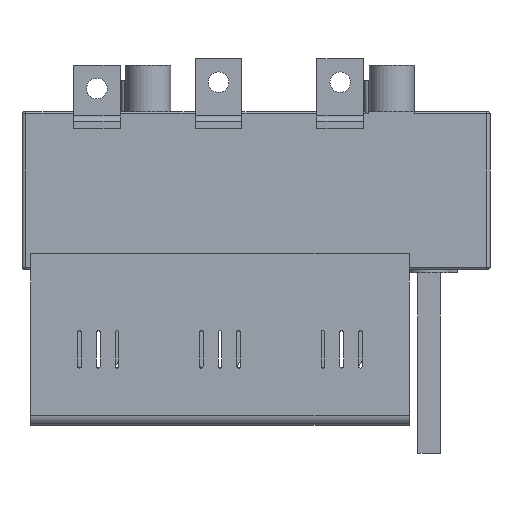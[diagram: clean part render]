
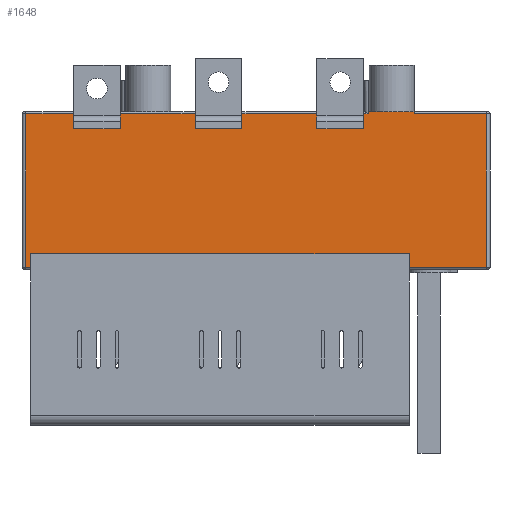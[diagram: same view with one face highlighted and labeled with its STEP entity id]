
A CAD part, front view. The second image highlights one B-rep face of the part: STEP entity #1648.
In plain terms, the highlighted planar face has unit normal (0, -1, 0).
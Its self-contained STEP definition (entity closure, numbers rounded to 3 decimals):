
#1648=ADVANCED_FACE('',(#3215),#2300,.T.);
#2300=PLANE('',#20838);
#3215=FACE_OUTER_BOUND('',#4389,.T.);
#4389=EDGE_LOOP('',(#10401,#10402,#10403,#10404,#10405,#10406,#10407,#10408,
#10409,#10410,#10411,#10412,#10413,#10414,#10415,#10416,#10417,#10418,#10419,
#10420,#10421,#10422,#10423,#10424,#10425,#10426,#10427,#10428));
#10401=ORIENTED_EDGE('',*,*,#14681,.F.);
#10402=ORIENTED_EDGE('',*,*,#14700,.F.);
#10403=ORIENTED_EDGE('',*,*,#15108,.T.);
#10404=ORIENTED_EDGE('',*,*,#15101,.T.);
#10405=ORIENTED_EDGE('',*,*,#14937,.F.);
#10406=ORIENTED_EDGE('',*,*,#14927,.T.);
#10407=ORIENTED_EDGE('',*,*,#14936,.T.);
#10408=ORIENTED_EDGE('',*,*,#14897,.T.);
#10409=ORIENTED_EDGE('',*,*,#15061,.T.);
#10410=ORIENTED_EDGE('',*,*,#15054,.F.);
#10411=ORIENTED_EDGE('',*,*,#14990,.F.);
#10412=ORIENTED_EDGE('',*,*,#15072,.T.);
#10413=ORIENTED_EDGE('',*,*,#15003,.T.);
#10414=ORIENTED_EDGE('',*,*,#15092,.T.);
#10415=ORIENTED_EDGE('',*,*,#14849,.F.);
#10416=ORIENTED_EDGE('',*,*,#14619,.T.);
#10417=ORIENTED_EDGE('',*,*,#14595,.T.);
#10418=ORIENTED_EDGE('',*,*,#14620,.T.);
#10419=ORIENTED_EDGE('',*,*,#14854,.T.);
#10420=ORIENTED_EDGE('',*,*,#15095,.T.);
#10421=ORIENTED_EDGE('',*,*,#15109,.F.);
#10422=ORIENTED_EDGE('',*,*,#14649,.F.);
#10423=ORIENTED_EDGE('',*,*,#14638,.F.);
#10424=ORIENTED_EDGE('',*,*,#14657,.F.);
#10425=ORIENTED_EDGE('',*,*,#15110,.T.);
#10426=ORIENTED_EDGE('',*,*,#15098,.T.);
#10427=ORIENTED_EDGE('',*,*,#15111,.F.);
#10428=ORIENTED_EDGE('',*,*,#14692,.F.);
#12033=VERTEX_POINT('',#30718);
#12036=VERTEX_POINT('',#30724);
#12038=VERTEX_POINT('',#30730);
#12039=VERTEX_POINT('',#30731);
#12065=VERTEX_POINT('',#30807);
#12068=VERTEX_POINT('',#30813);
#12070=VERTEX_POINT('',#30819);
#12071=VERTEX_POINT('',#30820);
#12097=VERTEX_POINT('',#30896);
#12100=VERTEX_POINT('',#30902);
#12102=VERTEX_POINT('',#30908);
#12103=VERTEX_POINT('',#30909);
#12217=VERTEX_POINT('',#31261);
#12220=VERTEX_POINT('',#31269);
#12252=VERTEX_POINT('',#31355);
#12253=VERTEX_POINT('',#31375);
#12261=VERTEX_POINT('',#31396);
#12271=VERTEX_POINT('',#31423);
#12275=VERTEX_POINT('',#31465);
#12323=VERTEX_POINT('',#31610);
#12324=VERTEX_POINT('',#31612);
#12331=VERTEX_POINT('',#31642);
#12334=VERTEX_POINT('',#31659);
#12369=VERTEX_POINT('',#31761);
#12379=VERTEX_POINT('',#31834);
#12381=VERTEX_POINT('',#31840);
#12382=VERTEX_POINT('',#31842);
#12384=VERTEX_POINT('',#31848);
#14595=EDGE_CURVE('',#12038,#12039,#16809,.T.);
#14619=EDGE_CURVE('',#12036,#12038,#16829,.T.);
#14620=EDGE_CURVE('',#12039,#12033,#16830,.T.);
#14638=EDGE_CURVE('',#12070,#12071,#16840,.T.);
#14649=EDGE_CURVE('',#12071,#12068,#16849,.T.);
#14657=EDGE_CURVE('',#12065,#12070,#16857,.T.);
#14681=EDGE_CURVE('',#12102,#12103,#16871,.T.);
#14692=EDGE_CURVE('',#12103,#12100,#16880,.T.);
#14700=EDGE_CURVE('',#12097,#12102,#16888,.T.);
#14849=EDGE_CURVE('',#12036,#12217,#16978,.T.);
#14854=EDGE_CURVE('',#12033,#12220,#16981,.T.);
#14897=EDGE_CURVE('',#12252,#12253,#17004,.T.);
#14927=EDGE_CURVE('',#12275,#12271,#17013,.T.);
#14936=EDGE_CURVE('',#12271,#12252,#17018,.T.);
#14937=EDGE_CURVE('',#12275,#12261,#17019,.T.);
#14990=EDGE_CURVE('',#12323,#12324,#17041,.T.);
#15003=EDGE_CURVE('',#12331,#12334,#17048,.T.);
#15054=EDGE_CURVE('',#12324,#12369,#17080,.T.);
#15061=EDGE_CURVE('',#12253,#12369,#17086,.T.);
#15072=EDGE_CURVE('',#12323,#12331,#17096,.T.);
#15092=EDGE_CURVE('',#12334,#12217,#17114,.T.);
#15095=EDGE_CURVE('',#12220,#12379,#17116,.T.);
#15098=EDGE_CURVE('',#12382,#12381,#17118,.T.);
#15101=EDGE_CURVE('',#12384,#12261,#17120,.T.);
#15108=EDGE_CURVE('',#12097,#12384,#17126,.T.);
#15109=EDGE_CURVE('',#12068,#12379,#17127,.T.);
#15110=EDGE_CURVE('',#12065,#12382,#17128,.T.);
#15111=EDGE_CURVE('',#12100,#12381,#17129,.T.);
#16809=LINE('',#30729,#18827);
#16829=LINE('',#30778,#18847);
#16830=LINE('',#30780,#18848);
#16840=LINE('',#30818,#18858);
#16849=LINE('',#30842,#18867);
#16857=LINE('',#30857,#18875);
#16871=LINE('',#30907,#18889);
#16880=LINE('',#30931,#18898);
#16888=LINE('',#30946,#18906);
#16978=LINE('',#31260,#18996);
#16981=LINE('',#31270,#18999);
#17004=LINE('',#31377,#19022);
#17013=LINE('',#31468,#19031);
#17018=LINE('',#31485,#19036);
#17019=LINE('',#31487,#19037);
#17041=LINE('',#31611,#19059);
#17048=LINE('',#31660,#19066);
#17080=LINE('',#31760,#19098);
#17086=LINE('',#31772,#19104);
#17096=LINE('',#31792,#19114);
#17114=LINE('',#31829,#19132);
#17116=LINE('',#31835,#19134);
#17118=LINE('',#31841,#19136);
#17120=LINE('',#31847,#19138);
#17126=LINE('',#31858,#19144);
#17127=LINE('',#31859,#19145);
#17128=LINE('',#31860,#19146);
#17129=LINE('',#31861,#19147);
#18827=VECTOR('',#25133,1.);
#18847=VECTOR('',#25179,1.);
#18848=VECTOR('',#25182,1.);
#18858=VECTOR('',#25216,1.);
#18867=VECTOR('',#25239,1.);
#18875=VECTOR('',#25253,1.);
#18889=VECTOR('',#25299,1.);
#18898=VECTOR('',#25322,1.);
#18906=VECTOR('',#25336,1.);
#18996=VECTOR('',#25668,1.);
#18999=VECTOR('',#25677,1.);
#19022=VECTOR('',#25768,1.);
#19031=VECTOR('',#25833,1.);
#19036=VECTOR('',#25856,1.);
#19037=VECTOR('',#25859,1.);
#19059=VECTOR('',#25997,1.);
#19066=VECTOR('',#26018,1.);
#19098=VECTOR('',#26118,1.);
#19104=VECTOR('',#26130,1.);
#19114=VECTOR('',#26152,1.);
#19132=VECTOR('',#26204,1.);
#19134=VECTOR('',#26210,1.);
#19136=VECTOR('',#26216,1.);
#19138=VECTOR('',#26222,1.);
#19144=VECTOR('',#26234,1.);
#19145=VECTOR('',#26235,1.);
#19146=VECTOR('',#26236,1.);
#19147=VECTOR('',#26237,1.);
#20838=AXIS2_PLACEMENT_3D('',#31862,#26238,#26239);
#25133=DIRECTION('',(-1.,0.,0.));
#25179=DIRECTION('',(0.,0.,-1.));
#25182=DIRECTION('',(0.,0.,1.));
#25216=DIRECTION('',(1.,0.,0.));
#25239=DIRECTION('',(0.,0.,1.));
#25253=DIRECTION('',(0.,0.,-1.));
#25299=DIRECTION('',(1.,0.,0.));
#25322=DIRECTION('',(0.,0.,1.));
#25336=DIRECTION('',(0.,0.,-1.));
#25668=DIRECTION('',(0.,0.,1.));
#25677=DIRECTION('',(0.,0.,1.));
#25768=DIRECTION('',(-1.,0.,0.));
#25833=DIRECTION('',(1.,0.,0.));
#25856=DIRECTION('',(0.,0.,1.));
#25859=DIRECTION('',(0.,0.,1.));
#25997=DIRECTION('',(0.,0.,-1.));
#26018=DIRECTION('',(0.,0.,-1.));
#26118=DIRECTION('',(1.,0.,0.));
#26130=DIRECTION('',(0.,0.,1.));
#26152=DIRECTION('',(-1.,0.,0.));
#26204=DIRECTION('',(-1.,0.,0.));
#26210=DIRECTION('',(-1.,0.,0.));
#26216=DIRECTION('',(-1.,0.,0.));
#26222=DIRECTION('',(-1.,0.,0.));
#26234=DIRECTION('',(0.,0.,1.));
#26235=DIRECTION('',(0.,0.,1.));
#26236=DIRECTION('',(0.,0.,1.));
#26237=DIRECTION('',(0.,0.,1.));
#26238=DIRECTION('',(0.,-1.,0.));
#26239=DIRECTION('',(1.,0.,0.));
#30718=CARTESIAN_POINT('',(-40.,-52.5,-5.));
#30724=CARTESIAN_POINT('',(-15.,-52.5,-5.));
#30729=CARTESIAN_POINT('',(-15.,-52.5,-9.));
#30730=CARTESIAN_POINT('',(-15.,-52.5,-9.));
#30731=CARTESIAN_POINT('',(-40.,-52.5,-9.));
#30778=CARTESIAN_POINT('',(-15.,-52.5,-9.));
#30780=CARTESIAN_POINT('',(-40.,-52.5,-9.));
#30807=CARTESIAN_POINT('',(-105.,-52.5,-5.));
#30813=CARTESIAN_POINT('',(-80.,-52.5,-5.));
#30818=CARTESIAN_POINT('',(-80.,-52.5,-9.));
#30819=CARTESIAN_POINT('',(-105.,-52.5,-9.));
#30820=CARTESIAN_POINT('',(-80.,-52.5,-9.));
#30842=CARTESIAN_POINT('',(-80.,-52.5,-9.));
#30857=CARTESIAN_POINT('',(-105.,-52.5,-9.));
#30896=CARTESIAN_POINT('',(-170.,-52.5,-5.));
#30902=CARTESIAN_POINT('',(-145.,-52.5,-5.));
#30907=CARTESIAN_POINT('',(-145.,-52.5,-9.));
#30908=CARTESIAN_POINT('',(-170.,-52.5,-9.));
#30909=CARTESIAN_POINT('',(-145.,-52.5,-9.));
#30931=CARTESIAN_POINT('',(-145.,-52.5,-9.));
#30946=CARTESIAN_POINT('',(-170.,-52.5,-9.));
#31260=CARTESIAN_POINT('',(-15.,-52.5,-9.));
#31261=CARTESIAN_POINT('',(-15.,-52.5,-1.));
#31269=CARTESIAN_POINT('',(-40.,-52.5,-1.));
#31270=CARTESIAN_POINT('',(-40.,-52.5,-9.));
#31355=CARTESIAN_POINT('',(50.5,-52.5,-1.));
#31375=CARTESIAN_POINT('',(12.,-52.5,-1.));
#31377=CARTESIAN_POINT('',(12.,-52.5,-1.));
#31396=CARTESIAN_POINT('',(-195.5,-52.5,-1.));
#31423=CARTESIAN_POINT('',(50.5,-52.5,-83.));
#31465=CARTESIAN_POINT('',(-195.5,-52.5,-83.));
#31468=CARTESIAN_POINT('',(-12.,-52.5,-83.));
#31485=CARTESIAN_POINT('',(50.5,-52.5,-84.));
#31487=CARTESIAN_POINT('',(-195.5,-52.5,-84.));
#31610=CARTESIAN_POINT('',(-12.,-52.5,17.));
#31611=CARTESIAN_POINT('',(-12.,-52.5,25.));
#31612=CARTESIAN_POINT('',(-12.,-52.5,0.));
#31642=CARTESIAN_POINT('',(-12.5,-52.5,17.));
#31659=CARTESIAN_POINT('',(-12.5,-52.5,-1.));
#31660=CARTESIAN_POINT('',(-12.5,-52.5,4.));
#31760=CARTESIAN_POINT('',(50.5,-52.5,0.));
#31761=CARTESIAN_POINT('',(12.,-52.5,0.));
#31772=CARTESIAN_POINT('',(12.,-52.5,4.));
#31792=CARTESIAN_POINT('',(7.5,-52.5,17.));
#31829=CARTESIAN_POINT('',(-195.5,-52.5,-1.));
#31834=CARTESIAN_POINT('',(-80.,-52.5,-1.));
#31835=CARTESIAN_POINT('',(-195.5,-52.5,-1.));
#31840=CARTESIAN_POINT('',(-145.,-52.5,-1.));
#31841=CARTESIAN_POINT('',(-195.5,-52.5,-1.));
#31842=CARTESIAN_POINT('',(-105.,-52.5,-1.));
#31847=CARTESIAN_POINT('',(-195.5,-52.5,-1.));
#31848=CARTESIAN_POINT('',(-170.,-52.5,-1.));
#31858=CARTESIAN_POINT('',(-170.,-52.5,-9.));
#31859=CARTESIAN_POINT('',(-80.,-52.5,-9.));
#31860=CARTESIAN_POINT('',(-105.,-52.5,-9.));
#31861=CARTESIAN_POINT('',(-145.,-52.5,-9.));
#31862=CARTESIAN_POINT('',(-12.,-52.5,4.));
